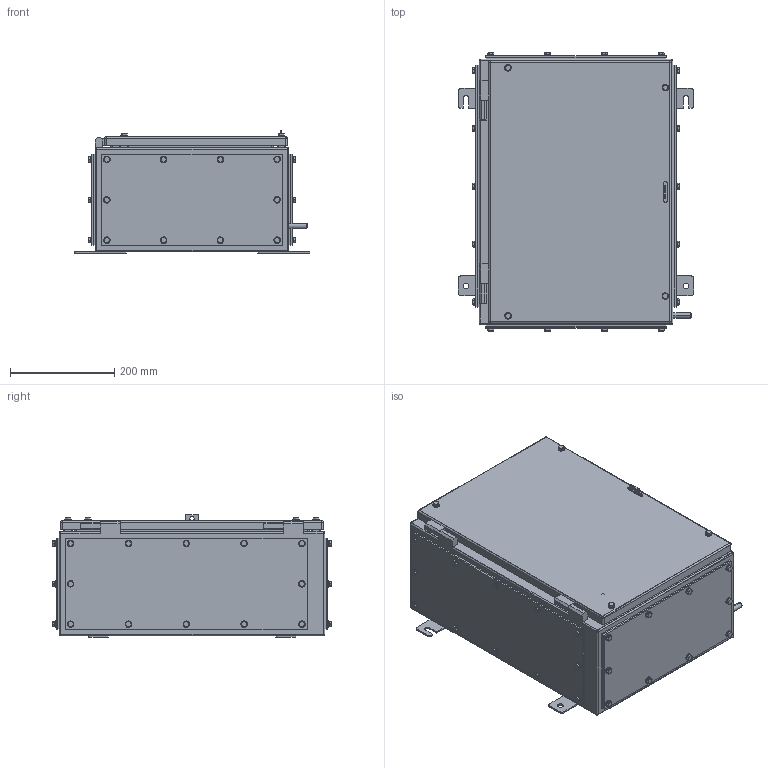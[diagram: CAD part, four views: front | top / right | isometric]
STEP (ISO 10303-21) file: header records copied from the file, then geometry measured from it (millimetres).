
FILE_DESCRIPTION (( 'STEP AP203' ), '1' );
FILE_NAME ('SX4_200_4GP.STEP', '2021-05-20T14:24:56', ( '' ), ( '' ), 'SwSTEP 2.0', 'SolidWorks 2020', '' );
FILE_SCHEMA (( 'CONFIG_CONTROL_DESIGN' ));
Length unit declared in the file: millimetre
Products named in the file (10): SX4-200 Base Gland plate; SX4_200_4GP Body; SX4_200_4GP; plain washer form a_bsi_Bright washer BS 4320 - M6 (Form A); hex screw gradec_bsi_BS EN 24018 - M6 x 20-WN; SX4-200 side Gasket; SX4-200 Base Gasket; SX4-200 side Gland plate; hex screw gradec_bsi_BS EN 24018 - M6 x 16-WN; SX4 Door
Assembly tree (106 placements, depth 2):
  SX4_200_4GP
    SX4 Door
    hex screw gradec_bsi_BS EN 24018 - M6 x 16-WN  x44
    hex screw gradec_bsi_BS EN 24018 - M6 x 20-WN  x4
    plain washer form a_bsi_Bright washer BS 4320 - M6 (Form A)  x48
    SX4_200_4GP Body
    SX4-200 Base Gland plate  x2
    SX4-200 Base Gasket  x2
    SX4-200 side Gasket  x2
    SX4-200 side Gland plate  x2
Bounding box: 452 x 533.95 x 236 mm (x, y, z)
Volume: 2509576.8 mm3; surface area: 2117353.6 mm2
Topology: 106 solids, 106 shells, 2483 faces, 5413 edges, 3274 vertices
Faces by surface type: plane 1126, cylinder 917, cone 392, sphere 40, torus 8
Entity records: 27961 total; most frequent: DIRECTION 4691, CARTESIAN_POINT 4141, ORIENTED_EDGE 3770, AXIS2_PLACEMENT_3D 1888, EDGE_CURVE 1885, VERTEX_POINT 1194, EDGE_LOOP 1075, CIRCLE 946
